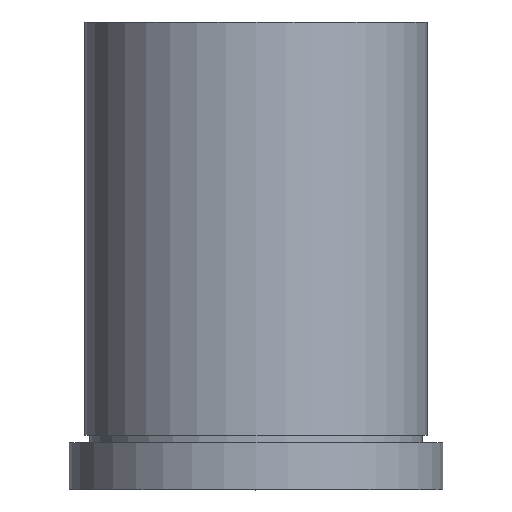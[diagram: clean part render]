
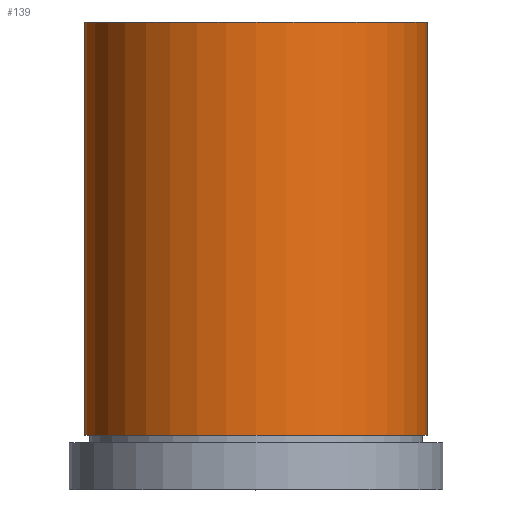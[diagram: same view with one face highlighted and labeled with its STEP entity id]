
A CAD part, top view. The second image highlights one B-rep face of the part: STEP entity #139.
In plain terms, the highlighted cylindrical face has radius 17.469 mm (diameter 34.938 mm), a partial arc.
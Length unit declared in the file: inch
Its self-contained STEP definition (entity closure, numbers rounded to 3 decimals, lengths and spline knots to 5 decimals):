
#110 = ORIENTED_EDGE ( 'NONE', *, *, #111, .F. ) ;
#111 = EDGE_CURVE ( 'NONE', #142, #149, #356, .T. ) ;
#123 = EDGE_LOOP ( 'NONE', ( #140, #144, #147, #110 ) ) ;
#139 = ADVANCED_FACE ( 'NONE', ( #457 ), #405, .T. ) ;
#140 = ORIENTED_EDGE ( 'NONE', *, *, #141, .T. ) ;
#141 = EDGE_CURVE ( 'NONE', #142, #143, #456, .T. ) ;
#142 = VERTEX_POINT ( 'NONE', #396 ) ;
#143 = VERTEX_POINT ( 'NONE', #354 ) ;
#144 = ORIENTED_EDGE ( 'NONE', *, *, #145, .T. ) ;
#145 = EDGE_CURVE ( 'NONE', #143, #146, #353, .T. ) ;
#146 = VERTEX_POINT ( 'NONE', #349 ) ;
#147 = ORIENTED_EDGE ( 'NONE', *, *, #148, .F. ) ;
#148 = EDGE_CURVE ( 'NONE', #149, #146, #348, .T. ) ;
#149 = VERTEX_POINT ( 'NONE', #423 ) ;
#347 = AXIS2_PLACEMENT_3D ( 'NONE', #426, #425, #424 ) ;
#348 = CIRCLE ( 'NONE', #347, 0.68775 ) ;
#349 = CARTESIAN_POINT ( 'NONE',  ( -0.68775, 0.8445, 0. ) ) ;
#350 = DIRECTION ( 'NONE',  ( 0., -1., 0. ) ) ;
#351 = VECTOR ( 'NONE', #350, 39.37008 ) ;
#352 = CARTESIAN_POINT ( 'NONE',  ( -0.68775, -39.37008, 0. ) ) ;
#353 = LINE ( 'NONE', #352, #351 ) ;
#354 = CARTESIAN_POINT ( 'NONE',  ( -0.68775, 2.502, 0. ) ) ;
#355 = CARTESIAN_POINT ( 'NONE',  ( 0.68775, -39.37008, 0. ) ) ;
#356 = LINE ( 'NONE', #355, #395 ) ;
#394 = DIRECTION ( 'NONE',  ( 0., -1., 0. ) ) ;
#395 = VECTOR ( 'NONE', #394, 39.37008 ) ;
#396 = CARTESIAN_POINT ( 'NONE',  ( 0.68775, 2.502, 0. ) ) ;
#397 = DIRECTION ( 'NONE',  ( 1., 0., 0. ) ) ;
#398 = DIRECTION ( 'NONE',  ( 0., -1., 0. ) ) ;
#399 = CARTESIAN_POINT ( 'NONE',  ( 0., 2.502, 0. ) ) ;
#400 = AXIS2_PLACEMENT_3D ( 'NONE', #399, #398, #397 ) ;
#401 = DIRECTION ( 'NONE',  ( 1., 0., 0. ) ) ;
#402 = DIRECTION ( 'NONE',  ( 0., -1., 0. ) ) ;
#403 = CARTESIAN_POINT ( 'NONE',  ( 0., -39.37008, 0. ) ) ;
#404 = AXIS2_PLACEMENT_3D ( 'NONE', #403, #402, #401 ) ;
#405 = CYLINDRICAL_SURFACE ( 'NONE', #404, 0.68775 ) ;
#423 = CARTESIAN_POINT ( 'NONE',  ( 0.68775, 0.8445, 0. ) ) ;
#424 = DIRECTION ( 'NONE',  ( 1., 0., 0. ) ) ;
#425 = DIRECTION ( 'NONE',  ( 0., -1., 0. ) ) ;
#426 = CARTESIAN_POINT ( 'NONE',  ( 0., 0.8445, 0. ) ) ;
#456 = CIRCLE ( 'NONE', #400, 0.68775 ) ;
#457 = FACE_OUTER_BOUND ( 'NONE', #123, .T. ) ;
